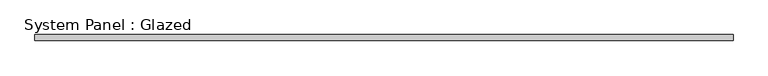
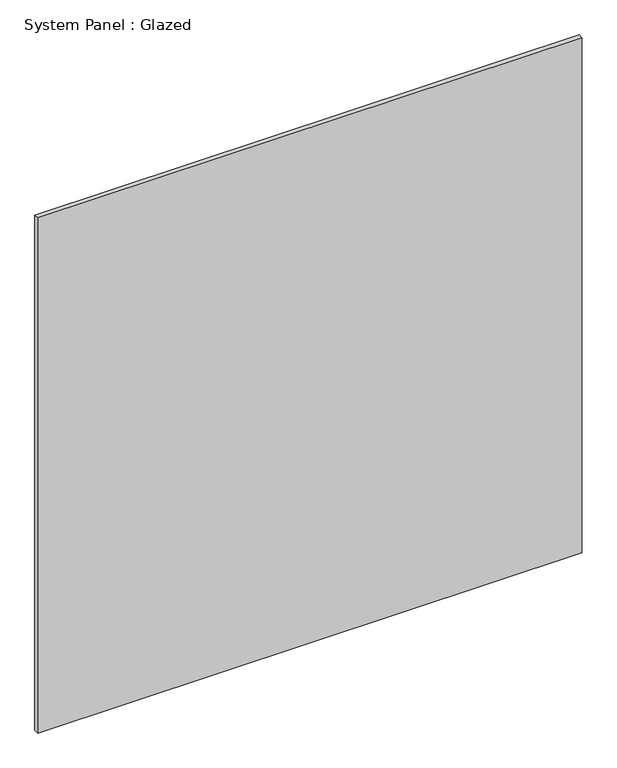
"""IFC4 building model written with IfcOpenShell, lengths in millimetres: plate geometry, System Panel : Glazed."""

from ifc_helpers import new_model, si_unit, origin, origin_with_axes, place, context, project, spatial, polyline, outline, extrude, source, transform, mapped, element, save


def system_panel_glazed_8a0dce87(model_context):
    return source(origin(), model_context, "Body", "SweptSolid", [
        extrude(outline(polyline([(1460.5, 19.05), (-1460.5, 19.05), (-1460.5, 44.45), (1460.5, 44.45), (1460.5, 19.05)])), origin_with_axes(), (0.0, 0.0, 1.0), 2921.0),
    ])


if __name__ == "__main__":
    model = new_model("IFC4")
    model_context = context("Model", 3, world=origin())
    ifc_project = project(units=[si_unit("LENGTHUNIT", "METRE", prefix="MILLI")], contexts=[model_context])
    site = spatial("IfcSite", under=ifc_project)
    building = spatial("IfcBuilding", under=site)
    placement = place(None, origin())
    system_panel_glazed_shape = system_panel_glazed_8a0dce87(model_context)
    element("IfcPlate", 1, ObjectType="System Panel : Glazed", at=placement, inside=building, context=model_context, shape_type="MappedRepresentation", body=[
        mapped(system_panel_glazed_shape, transform((0.0, 0.0, 0.0), x_axis=(1.0, 0.0, 0.0), y_axis=(0.0, 1.0, 0.0), z_axis=(0.0, 0.0, 1.0))),
    ])
    save(model, "model.ifc")
